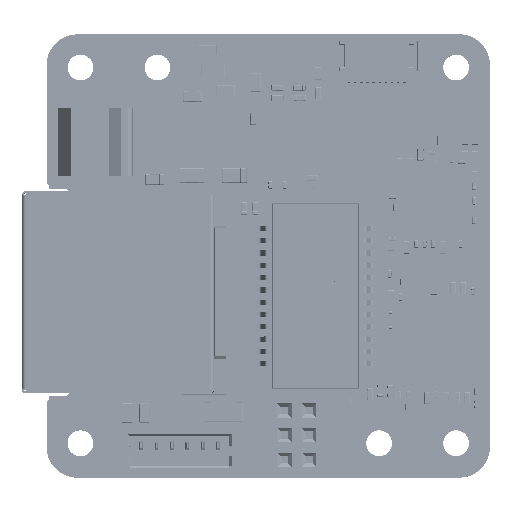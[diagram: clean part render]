
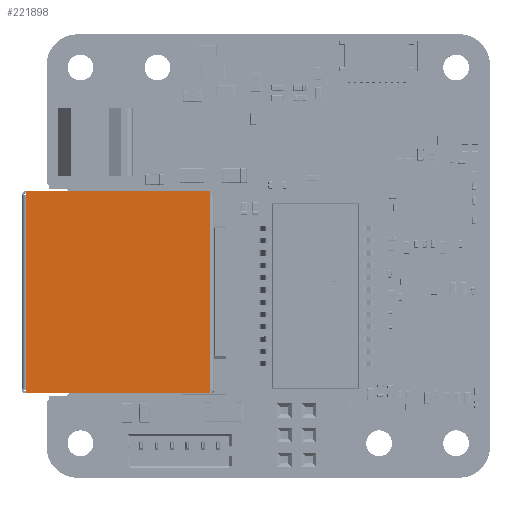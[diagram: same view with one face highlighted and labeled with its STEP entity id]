
A CAD part, top view. The second image highlights one B-rep face of the part: STEP entity #221898.
In plain terms, the highlighted planar face has unit normal (0, 0, 1).
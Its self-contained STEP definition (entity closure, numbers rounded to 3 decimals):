
#32430=FACE_OUTER_BOUND('',#46359,.T.);
#46359=EDGE_LOOP('',(#185719,#185720,#185721,#185722,#185723,#185724,#185725,
#185726));
#63921=LINE('',#371466,#82637);
#63925=LINE('',#371475,#82641);
#63930=LINE('',#371485,#82646);
#63931=LINE('',#371488,#82647);
#63936=LINE('',#371497,#82652);
#63937=LINE('',#371499,#82653);
#63942=LINE('',#371506,#82658);
#63943=LINE('',#371507,#82659);
#82637=VECTOR('',#310573,1.);
#82641=VECTOR('',#310579,1.);
#82646=VECTOR('',#310586,1.);
#82647=VECTOR('',#310589,1.);
#82652=VECTOR('',#310596,1.);
#82653=VECTOR('',#310599,1.);
#82658=VECTOR('',#310608,1.);
#82659=VECTOR('',#310609,1.);
#100110=VERTEX_POINT('',#371463);
#100111=VERTEX_POINT('',#371465);
#100114=VERTEX_POINT('',#371472);
#100115=VERTEX_POINT('',#371474);
#100117=VERTEX_POINT('',#371479);
#100119=VERTEX_POINT('',#371483);
#100120=VERTEX_POINT('',#371487);
#100123=VERTEX_POINT('',#371494);
#129027=EDGE_CURVE('',#100111,#100110,#63921,.T.);
#129031=EDGE_CURVE('',#100114,#100115,#63925,.T.);
#129036=EDGE_CURVE('',#100117,#100119,#63930,.T.);
#129037=EDGE_CURVE('',#100120,#100111,#63931,.T.);
#129042=EDGE_CURVE('',#100120,#100123,#63936,.T.);
#129043=EDGE_CURVE('',#100119,#100115,#63937,.T.);
#129048=EDGE_CURVE('',#100117,#100110,#63942,.T.);
#129049=EDGE_CURVE('',#100123,#100114,#63943,.T.);
#185719=ORIENTED_EDGE('',*,*,#129042,.F.);
#185720=ORIENTED_EDGE('',*,*,#129037,.T.);
#185721=ORIENTED_EDGE('',*,*,#129027,.T.);
#185722=ORIENTED_EDGE('',*,*,#129048,.F.);
#185723=ORIENTED_EDGE('',*,*,#129036,.T.);
#185724=ORIENTED_EDGE('',*,*,#129043,.T.);
#185725=ORIENTED_EDGE('',*,*,#129031,.F.);
#185726=ORIENTED_EDGE('',*,*,#129049,.F.);
#195383=PLANE('',#246403);
#221898=ADVANCED_FACE('',(#32430),#195383,.F.);
#246403=AXIS2_PLACEMENT_3D('',#371505,#310606,#310607);
#310573=DIRECTION('',(0.,1.,0.));
#310579=DIRECTION('',(0.,1.,0.));
#310586=DIRECTION('',(0.,1.,0.));
#310589=DIRECTION('',(1.,0.,0.));
#310596=DIRECTION('',(0.,1.,0.));
#310599=DIRECTION('',(-1.,0.,0.));
#310606=DIRECTION('center_axis',(0.,0.,
-1.));
#310607=DIRECTION('ref_axis',(1.,0.,0.));
#310608=DIRECTION('',(0.,-1.,0.));
#310609=DIRECTION('',(0.,1.,0.));
#371463=CARTESIAN_POINT('',(13.305,7.1,13.263));
#371465=CARTESIAN_POINT('',(13.305,6.8,13.263));
#371466=CARTESIAN_POINT('',(13.305,15.,13.263));
#371472=CARTESIAN_POINT('',(-1.695,22.9,13.263));
#371474=CARTESIAN_POINT('',(-1.695,23.2,13.263));
#371475=CARTESIAN_POINT('',(-1.695,15.,13.263));
#371479=CARTESIAN_POINT('',(13.305,22.9,13.263));
#371483=CARTESIAN_POINT('',(13.305,23.2,13.263));
#371485=CARTESIAN_POINT('',(13.305,15.,13.263));
#371487=CARTESIAN_POINT('',(-1.695,6.8,13.263));
#371488=CARTESIAN_POINT('',(5.73,6.8,13.263));
#371494=CARTESIAN_POINT('',(-1.695,7.1,13.263));
#371497=CARTESIAN_POINT('',(-1.695,15.,13.263));
#371499=CARTESIAN_POINT('',(5.73,23.2,13.263));
#371505=CARTESIAN_POINT('Origin',(5.73,15.,13.263));
#371506=CARTESIAN_POINT('',(13.305,15.,13.263));
#371507=CARTESIAN_POINT('',(-1.695,15.,13.263));
